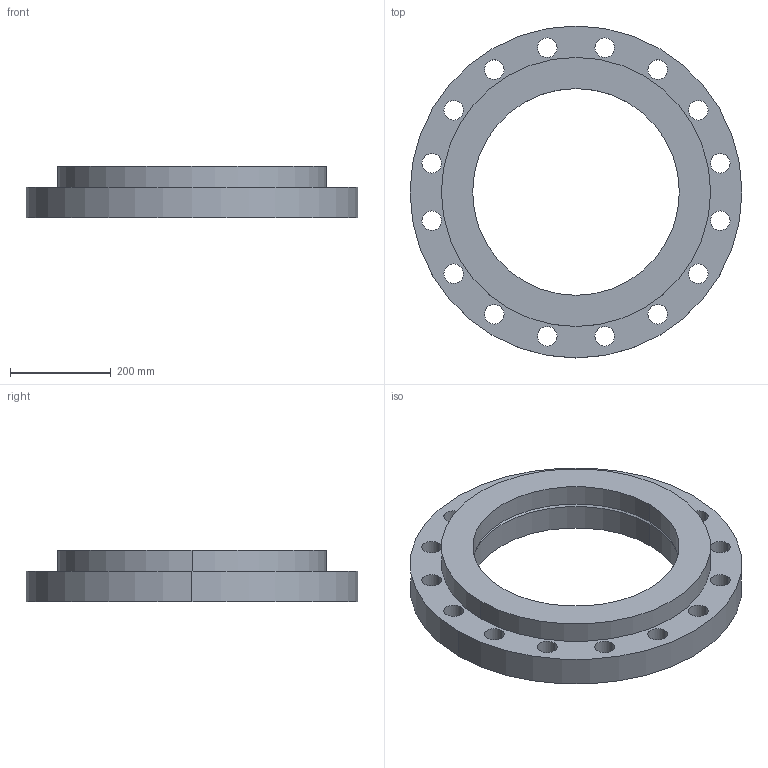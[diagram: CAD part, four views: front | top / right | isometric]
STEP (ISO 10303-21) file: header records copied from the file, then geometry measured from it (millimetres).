
FILE_DESCRIPTION (( 'STEP AP214' ), '1' );
FILE_NAME ('PN40 DN400 Type 02 in 32 - (Type A Face).STEP', '2019-01-05T23:23:18', ( '' ), ( '' ), 'SwSTEP 2.0', 'SolidWorks 2019', '' );
FILE_SCHEMA (( 'AUTOMOTIVE_DESIGN' ));
Length unit declared in the file: millimetre
Products named in the file (1): PN40 DN400 Type 02 in 32 - (Type A Face)
Bounding box: 660 x 660 x 102 mm (x, y, z)
Volume: 15052405 mm3; surface area: 997659.9 mm2
Topology: 2 solids, 2 shells, 46 faces, 124 edges, 82 vertices
Faces by surface type: cylinder 40, plane 4, cone 2
Entity records: 1609 total; most frequent: DIRECTION 300, CARTESIAN_POINT 253, ORIENTED_EDGE 248, AXIS2_PLACEMENT_3D 129, EDGE_CURVE 124, CIRCLE 82, VERTEX_POINT 82, EDGE_LOOP 82
